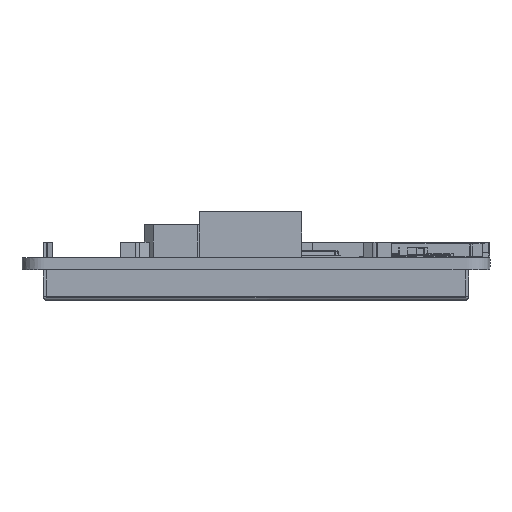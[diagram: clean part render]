
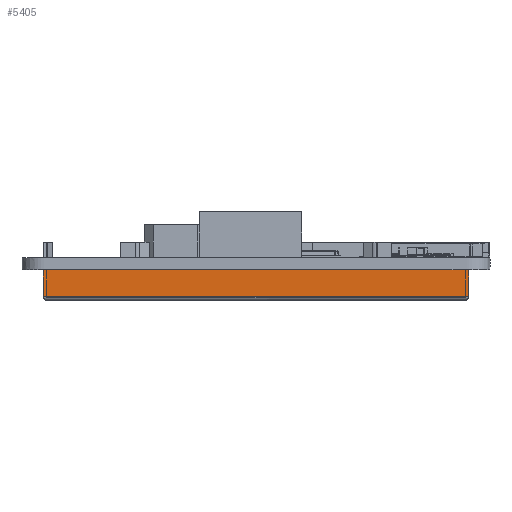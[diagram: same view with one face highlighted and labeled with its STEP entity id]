
A CAD part, left-side view. The second image highlights one B-rep face of the part: STEP entity #5405.
In plain terms, the highlighted planar face has unit normal (-1, 0, 0).
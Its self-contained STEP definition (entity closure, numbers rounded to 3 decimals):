
#2963=FACE_OUTER_BOUND('',#10212,.T.);
#5405=ADVANCED_FACE('',(#2963),#7874,.F.);
#7874=PLANE('',#50478);
#10212=EDGE_LOOP('',(#14372,#14373,#14374,#14375));
#14372=ORIENTED_EDGE('',*,*,#31916,.F.);
#14373=ORIENTED_EDGE('',*,*,#31917,.T.);
#14374=ORIENTED_EDGE('',*,*,#31918,.T.);
#14375=ORIENTED_EDGE('',*,*,#31886,.T.);
#26959=VERTEX_POINT('',#68036);
#26960=VERTEX_POINT('',#68037);
#26983=VERTEX_POINT('',#68098);
#26984=VERTEX_POINT('',#68100);
#31886=EDGE_CURVE('',#26959,#26960,#38840,.T.);
#31916=EDGE_CURVE('',#26983,#26960,#38864,.T.);
#31917=EDGE_CURVE('',#26983,#26984,#38865,.T.);
#31918=EDGE_CURVE('',#26984,#26959,#38866,.T.);
#38840=LINE('',#68035,#44928);
#38864=LINE('',#68097,#44952);
#38865=LINE('',#68099,#44953);
#38866=LINE('',#68101,#44954);
#44928=VECTOR('',#55132,1.);
#44952=VECTOR('',#55184,1.);
#44953=VECTOR('',#55185,1.);
#44954=VECTOR('',#55186,1.);
#50478=AXIS2_PLACEMENT_3D('',#68102,#55187,#55188);
#55132=DIRECTION('',(0.,1.,0.));
#55184=DIRECTION('',(0.,0.,1.));
#55185=DIRECTION('',(0.,-1.,0.));
#55186=DIRECTION('',(0.,0.,1.));
#55187=DIRECTION('',(1.,0.,0.));
#55188=DIRECTION('',(0.,0.,-1.));
#68035=CARTESIAN_POINT('',(292.061,-20.489,-1.6));
#68036=CARTESIAN_POINT('',(292.061,-20.489,-1.6));
#68037=CARTESIAN_POINT('',(292.061,35.011,-1.6));
#68097=CARTESIAN_POINT('',(292.061,35.011,-5.6));
#68098=CARTESIAN_POINT('',(292.061,35.011,-5.1));
#68099=CARTESIAN_POINT('',(292.061,-20.489,-5.1));
#68100=CARTESIAN_POINT('',(292.061,-20.489,-5.1));
#68101=CARTESIAN_POINT('',(292.061,-20.489,-5.6));
#68102=CARTESIAN_POINT('',(292.061,-20.489,-5.6));
